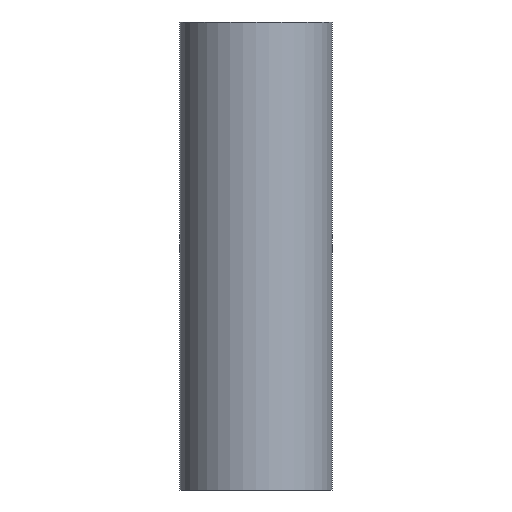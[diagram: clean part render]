
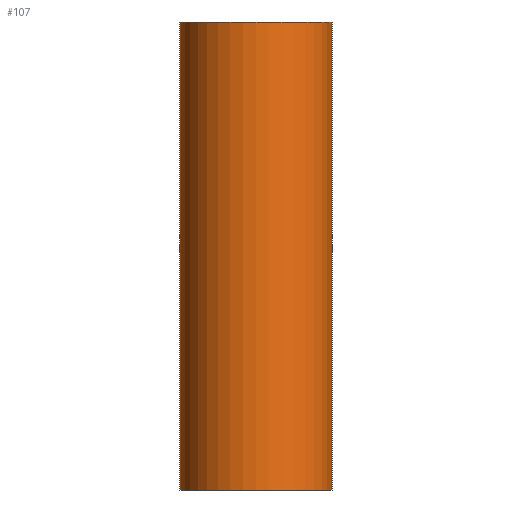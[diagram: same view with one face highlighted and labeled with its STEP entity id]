
A CAD part, front view. The second image highlights one B-rep face of the part: STEP entity #107.
In plain terms, the highlighted cylindrical face has radius 13 mm (diameter 26 mm), a partial arc.
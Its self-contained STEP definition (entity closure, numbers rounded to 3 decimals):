
#4 = DIRECTION ( 'NONE',  ( 1., 0., 0. ) ) ;
#6 = DIRECTION ( 'NONE',  ( 0., 0., -1. ) ) ;
#20 = VERTEX_POINT ( 'NONE', #218 ) ;
#22 = FACE_OUTER_BOUND ( 'NONE', #67, .T. ) ;
#26 = ORIENTED_EDGE ( 'NONE', *, *, #204, .T. ) ;
#29 = DIRECTION ( 'NONE',  ( 0., 0., -1. ) ) ;
#30 = CARTESIAN_POINT ( 'NONE',  ( 0., 0., 80. ) ) ;
#32 = CARTESIAN_POINT ( 'NONE',  ( -13., 0., 0. ) ) ;
#52 = CARTESIAN_POINT ( 'NONE',  ( -13., 0., 80. ) ) ;
#56 = CARTESIAN_POINT ( 'NONE',  ( 13., 0., 80. ) ) ;
#67 = EDGE_LOOP ( 'NONE', ( #180, #289, #26, #114 ) ) ;
#70 = LINE ( 'NONE', #56, #190 ) ;
#74 = VERTEX_POINT ( 'NONE', #52 ) ;
#82 = CARTESIAN_POINT ( 'NONE',  ( 13., 0., 80. ) ) ;
#98 = VECTOR ( 'NONE', #130, 1000. ) ;
#107 = ADVANCED_FACE ( 'NONE', ( #22 ), #240, .T. ) ;
#110 = EDGE_CURVE ( 'NONE', #175, #20, #70, .T. ) ;
#114 = ORIENTED_EDGE ( 'NONE', *, *, #166, .T. ) ;
#127 = CARTESIAN_POINT ( 'NONE',  ( -13., 0., 80. ) ) ;
#130 = DIRECTION ( 'NONE',  ( 0., 0., -1. ) ) ;
#131 = DIRECTION ( 'NONE',  ( 1., 0., 0. ) ) ;
#132 = VERTEX_POINT ( 'NONE', #32 ) ;
#142 = AXIS2_PLACEMENT_3D ( 'NONE', #155, #297, #131 ) ;
#155 = CARTESIAN_POINT ( 'NONE',  ( 0., 0., 0. ) ) ;
#166 = EDGE_CURVE ( 'NONE', #132, #20, #267, .T. ) ;
#175 = VERTEX_POINT ( 'NONE', #82 ) ;
#176 = DIRECTION ( 'NONE',  ( 0., 0., 1. ) ) ;
#180 = ORIENTED_EDGE ( 'NONE', *, *, #110, .F. ) ;
#190 = VECTOR ( 'NONE', #6, 1000. ) ;
#193 = CARTESIAN_POINT ( 'NONE',  ( 0., 0., 80. ) ) ;
#203 = AXIS2_PLACEMENT_3D ( 'NONE', #30, #176, #4 ) ;
#204 = EDGE_CURVE ( 'NONE', #74, #132, #284, .T. ) ;
#218 = CARTESIAN_POINT ( 'NONE',  ( 13., 0., 0. ) ) ;
#221 = EDGE_CURVE ( 'NONE', #74, #175, #291, .T. ) ;
#240 = CYLINDRICAL_SURFACE ( 'NONE', #310, 13. ) ;
#248 = DIRECTION ( 'NONE',  ( -1., 0., 0. ) ) ;
#267 = CIRCLE ( 'NONE', #142, 13. ) ;
#284 = LINE ( 'NONE', #127, #98 ) ;
#289 = ORIENTED_EDGE ( 'NONE', *, *, #221, .F. ) ;
#291 = CIRCLE ( 'NONE', #203, 13. ) ;
#297 = DIRECTION ( 'NONE',  ( 0., 0., 1. ) ) ;
#310 = AXIS2_PLACEMENT_3D ( 'NONE', #193, #29, #248 ) ;
